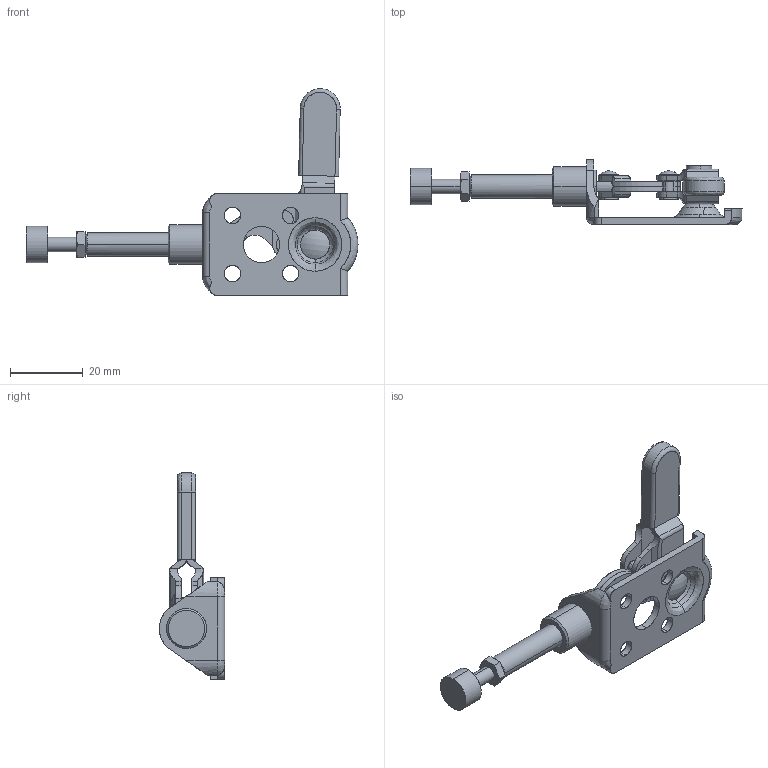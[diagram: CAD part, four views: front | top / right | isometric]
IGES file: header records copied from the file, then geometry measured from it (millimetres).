
Start section: SolidWorks IGES file using analytic representation for surfaces
Global section: file name: \\KOUGU-SV2\share\solidworks\工具事業部\坂入用\Toggle clamp\ISK-SL50L0-T1\ISK-SL50L0-T1.IGS; native system: SolidWorks 2024; preprocessor: SolidWorks 2024; author: kougu; date: 240624.102705; units: millimetre
Bounding box: 91.4 x 18 x 56.92 mm (x, y, z)
Surface area: 11364.7 mm2 (no closed solid volume)
Topology: 0 solids, 0 shells, 304 faces, 4808 edges, 4806 vertices
Faces by surface type: revolution 176, bspline 128
